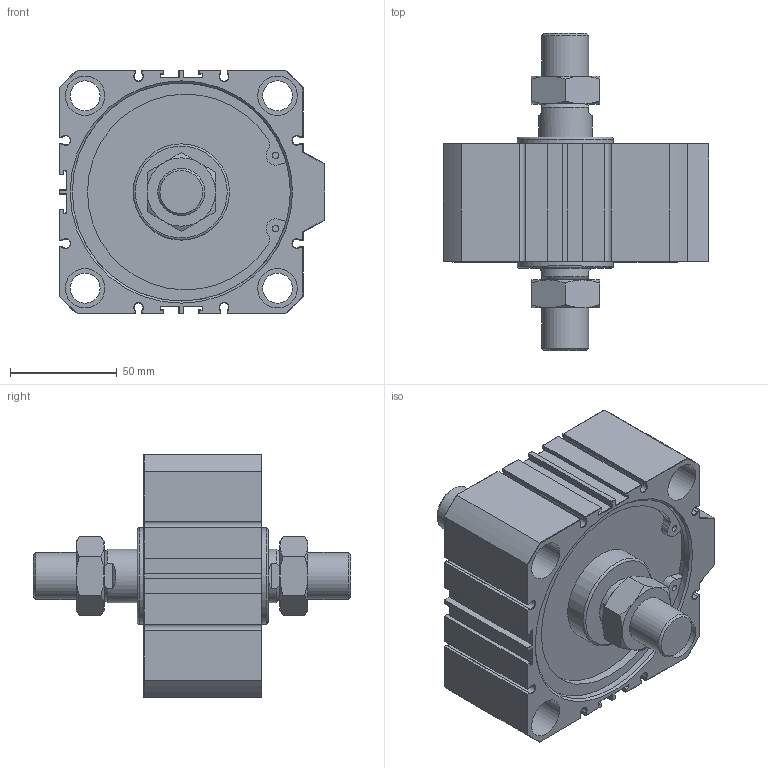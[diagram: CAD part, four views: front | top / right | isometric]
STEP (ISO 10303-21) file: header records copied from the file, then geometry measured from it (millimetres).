
FILE_DESCRIPTION(/* description */ (''),/* implementation_level */ '2;1');
FILE_NAME(/* name */ 'AJC-SW100X10W',/* time_stamp */ '2019-07-02T16:12:50+08:00',/* author */ ('JEFF HUANG'),/* organization */ ('TAIWAN AMAC CLAMP INDUSTRIAL CO., LTD.'),/* preprocessor_version */ 'ST-DEVELOPER v16.7',/* originating_system */ 'DEX',/* authorisation */ $);
FILE_SCHEMA (('AUTOMOTIVE_DESIGN {1 0 10303 214 3 1 1}'));
Length unit declared in the file: millimetre
Products named in the file (1): AJC-SW100X10W
Bounding box: 124 x 148.3 x 114 mm (x, y, z)
Volume: 626185.9 mm3; surface area: 86021.3 mm2
Topology: 1 solids, 1 shells, 417 faces, 947 edges, 524 vertices
Faces by surface type: plane 258, cone 90, cylinder 67, torus 2
Full cylindrical faces by diameter (mm): 3 x4, 14 x4, 15.806 x2, 18.5 x8, 22 x2, 25 x1, 45 x2, 102 x2
Entity records: 13865 total; most frequent: CARTESIAN_POINT 2040, DIRECTION 1842, ORIENTED_EDGE 1750, EDGE_CURVE 875, AXIS2_PLACEMENT_3D 621, LINE 600, VECTOR 600, VERTEX_POINT 517
